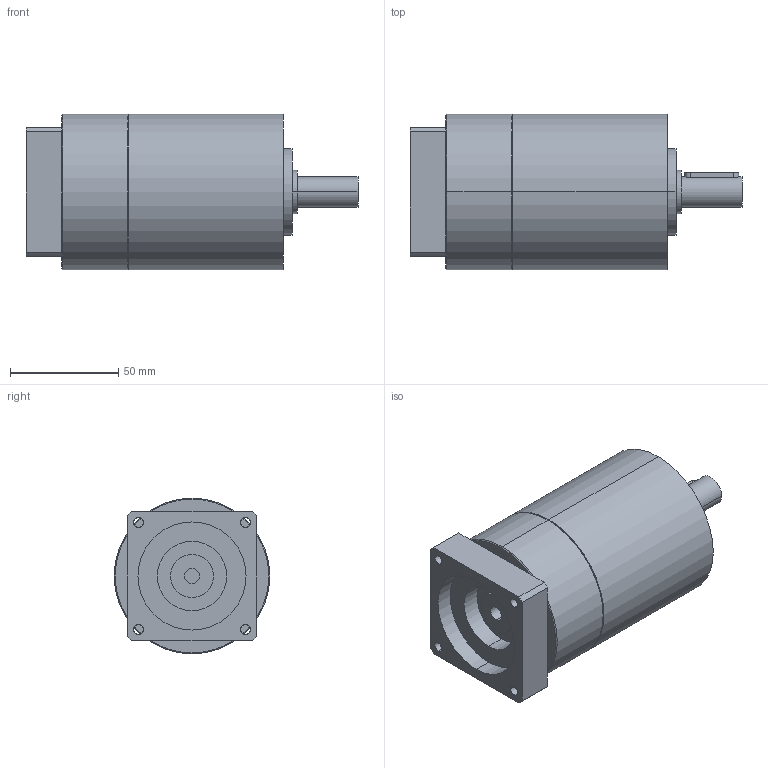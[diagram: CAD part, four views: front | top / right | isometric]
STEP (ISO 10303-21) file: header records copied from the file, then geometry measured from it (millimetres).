
FILE_DESCRIPTION(('CoCreate Modeling STEP Export'),'2;1');
FILE_NAME('GPT75_ig-9-12-16-20-25-28-35-40-50-70-100_14_B14T_7_P17.stp','2014-08-27T13:23:21',(''),(''),'CoCreate Modeling STEP processor for AP214 (Solid Model)','CoCreate Modeling 16.00C 25-Feb-2009 (C) Parametric Technology GmbH','');
FILE_SCHEMA(('AUTOMOTIVE_DESIGN { 1 0 10303 214 1 1 1 1 }'));
Length unit declared in the file: millimetre
Products named in the file (2): GPT75_ig-9-12-16-20-25-28-35-40-50-70-100_14_B14T_7_P17
Assembly tree (1 placements, depth 2):
  GPT75_ig-9-12-16-20-25-28-35-40-50-70-100_14_B14T_7_P17
    GPT75_ig-9-12-16-20-25-28-35-40-50-70-100_14_B14T_7_P17
Bounding box: 153.5 x 72 x 72 mm (x, y, z)
Volume: 462169.2 mm3; surface area: 42457.4 mm2
Topology: 1 solids, 1 shells, 80 faces, 198 edges, 129 vertices
Faces by surface type: cylinder 42, plane 34, cone 4
Entity records: 2353 total; most frequent: CARTESIAN_POINT 689, ORIENTED_EDGE 396, DIRECTION 276, EDGE_CURVE 198, VERTEX_POINT 129, AXIS2_PLACEMENT_3D 104, EDGE_LOOP 97, FACE_OUTER_BOUND 80
